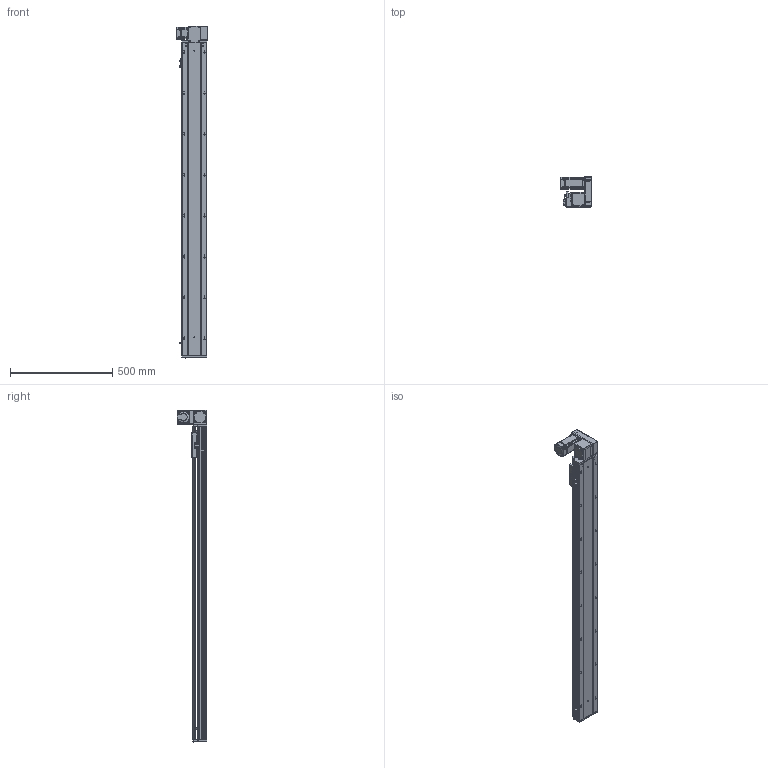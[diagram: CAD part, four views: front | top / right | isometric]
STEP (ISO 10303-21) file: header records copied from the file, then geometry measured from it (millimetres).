
FILE_DESCRIPTION (( 'STEP AP203' ), '1' );
FILE_NAME ('RY120-T-300-UR.SLDASM_1300.step', '2021-03-01T05:57:09', ( '盈信电脑' ), ( '东莞市道滘镇水果街19号' ), 'SwSTEP 2.0', 'SolidWorks 2012', '' );
FILE_SCHEMA (( 'CONFIG_CONTROL_DESIGN' ));
Length unit declared in the file: millimetre
Products named in the file (17): RY120外置感应片(140共用）; RY120-T肮祭湍揤踡輸1; 覜茼ん672; RY120綴裔啣; RY120-T-300-UR倰第奻裔啣_1300; RY120肮祭湍臏賑輸; RY120-T-300-UR倰第菁釱_1300; RY120-T翋肮祭盓傅釱; RY120-T萇儂假蚾啣; RY120-T肮祭湍揤踡輸2; RY120-T-300-UR.SLDASM_1300; RY120-T主同步轮轴承压盖; RY120-T萇儂欶; RY120-T蹟翐M4; 15; RY120-T翋肮祭謫裔啣; 滅袉蝶18-10
Assembly tree (22 placements, depth 2):
  RY120-T-300-UR.SLDASM_1300
    RY120-T-300-UR倰第菁釱_1300
    RY120-T-300-UR倰第奻裔啣_1300
    RY120肮祭湍臏賑輸
    RY120綴裔啣
    覜茼ん672  x3
    RY120外置感应片(140共用）
    RY120-T肮祭湍揤踡輸1
    RY120-T肮祭湍揤踡輸2
    RY120-T翋肮祭盓傅釱
    RY120-T萇儂假蚾啣
    滅袉蝶18-10  x2
    RY120-T翋肮祭謫裔啣
    15
    RY120-T蹟翐M4  x4
    RY120-T萇儂欶
    RY120-T主同步轮轴承压盖
Bounding box: 155.5 x 146 x 1621 mm (x, y, z)
Volume: 4274522.8 mm3; surface area: 1610706.6 mm2
Topology: 23 solids, 23 shells, 2894 faces, 7892 edges, 5048 vertices
Faces by surface type: plane 1422, cylinder 1112, cone 271, bspline 89
Entity records: 92195 total; most frequent: CARTESIAN_POINT 23554, ORIENTED_EDGE 14168, DIRECTION 13414, EDGE_CURVE 7084, VERTEX_POINT 4635, AXIS2_PLACEMENT_3D 4511, VECTOR 4392, LINE 4392
